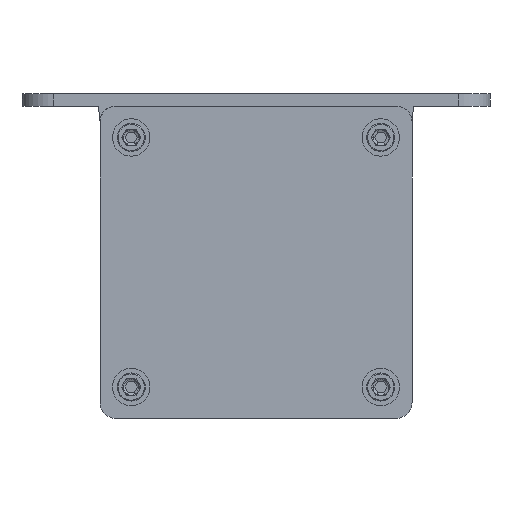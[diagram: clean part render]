
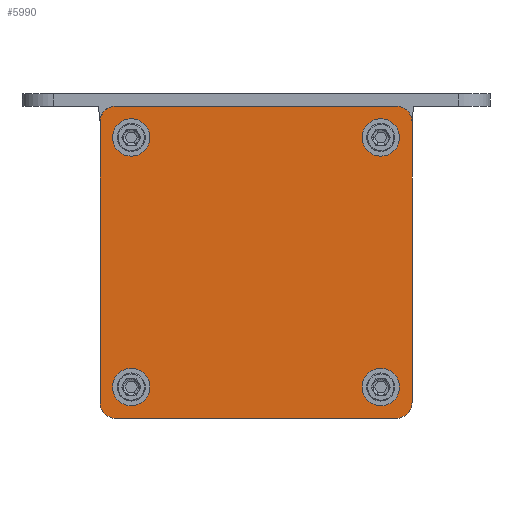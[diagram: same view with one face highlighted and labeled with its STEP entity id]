
A CAD part, front view. The second image highlights one B-rep face of the part: STEP entity #5990.
In plain terms, the highlighted planar face has unit normal (0, -1, 0).
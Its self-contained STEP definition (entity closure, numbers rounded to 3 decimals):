
#2125=CARTESIAN_POINT('',(-45.,-395.5,-45.));
#2126=DIRECTION('',(0.,-1.,0.));
#2127=DIRECTION('',(-1.,0.,0.));
#2128=AXIS2_PLACEMENT_3D('',#2125,#2126,#2127);
#2130=DIRECTION('',(0.,0.,-1.));
#2131=VECTOR('',#2130,90.);
#2132=CARTESIAN_POINT('',(-50.,-395.5,45.));
#2133=LINE('',#2132,#2131);
#2134=CARTESIAN_POINT('',(-45.,-395.5,45.));
#2135=DIRECTION('',(0.,-1.,0.));
#2136=DIRECTION('',(0.,0.,1.));
#2137=AXIS2_PLACEMENT_3D('',#2134,#2135,#2136);
#2139=DIRECTION('',(-1.,0.,0.));
#2140=VECTOR('',#2139,90.);
#2141=CARTESIAN_POINT('',(45.,-395.5,50.));
#2142=LINE('',#2141,#2140);
#2143=CARTESIAN_POINT('',(45.,-395.5,45.));
#2144=DIRECTION('',(0.,-1.,0.));
#2145=DIRECTION('',(1.,0.,0.));
#2146=AXIS2_PLACEMENT_3D('',#2143,#2144,#2145);
#2148=DIRECTION('',(0.,0.,1.));
#2149=VECTOR('',#2148,90.);
#2150=CARTESIAN_POINT('',(50.,-395.5,-45.));
#2151=LINE('',#2150,#2149);
#2152=CARTESIAN_POINT('',(45.,-395.5,-45.));
#2153=DIRECTION('',(0.,-1.,0.));
#2154=DIRECTION('',(0.,0.,-1.));
#2155=AXIS2_PLACEMENT_3D('',#2152,#2153,#2154);
#2157=DIRECTION('',(1.,0.,0.));
#2158=VECTOR('',#2157,90.);
#2159=CARTESIAN_POINT('',(-45.,-395.5,-50.));
#2160=LINE('',#2159,#2158);
#2161=CARTESIAN_POINT('',(-40.,-395.5,-40.));
#2162=DIRECTION('',(0.,-1.,0.));
#2163=DIRECTION('',(0.,0.,1.));
#2164=AXIS2_PLACEMENT_3D('',#2161,#2162,#2163);
#2166=CARTESIAN_POINT('',(-40.,-395.5,-40.));
#2167=DIRECTION('',(0.,-1.,0.));
#2168=DIRECTION('',(0.,0.,-1.));
#2169=AXIS2_PLACEMENT_3D('',#2166,#2167,#2168);
#2171=CARTESIAN_POINT('',(-40.,-395.5,40.));
#2172=DIRECTION('',(0.,-1.,0.));
#2173=DIRECTION('',(0.,0.,1.));
#2174=AXIS2_PLACEMENT_3D('',#2171,#2172,#2173);
#2176=CARTESIAN_POINT('',(-40.,-395.5,40.));
#2177=DIRECTION('',(0.,-1.,0.));
#2178=DIRECTION('',(0.,0.,-1.));
#2179=AXIS2_PLACEMENT_3D('',#2176,#2177,#2178);
#2181=CARTESIAN_POINT('',(40.,-395.5,-40.));
#2182=DIRECTION('',(0.,-1.,0.));
#2183=DIRECTION('',(0.,0.,1.));
#2184=AXIS2_PLACEMENT_3D('',#2181,#2182,#2183);
#2186=CARTESIAN_POINT('',(40.,-395.5,-40.));
#2187=DIRECTION('',(0.,-1.,0.));
#2188=DIRECTION('',(0.,0.,-1.));
#2189=AXIS2_PLACEMENT_3D('',#2186,#2187,#2188);
#2191=CARTESIAN_POINT('',(40.,-395.5,40.));
#2192=DIRECTION('',(0.,-1.,0.));
#2193=DIRECTION('',(0.,0.,1.));
#2194=AXIS2_PLACEMENT_3D('',#2191,#2192,#2193);
#2196=CARTESIAN_POINT('',(40.,-395.5,40.));
#2197=DIRECTION('',(0.,-1.,0.));
#2198=DIRECTION('',(0.,0.,-1.));
#2199=AXIS2_PLACEMENT_3D('',#2196,#2197,#2198);
#2509=CARTESIAN_POINT('',(-50.,-395.5,-45.));
#2510=CARTESIAN_POINT('',(-45.,-395.5,-50.));
#2511=VERTEX_POINT('',#2509);
#2512=VERTEX_POINT('',#2510);
#2513=CARTESIAN_POINT('',(45.,-395.5,-50.));
#2514=VERTEX_POINT('',#2513);
#2515=CARTESIAN_POINT('',(50.,-395.5,-45.));
#2516=VERTEX_POINT('',#2515);
#2517=CARTESIAN_POINT('',(50.,-395.5,45.));
#2518=VERTEX_POINT('',#2517);
#2519=CARTESIAN_POINT('',(45.,-395.5,50.));
#2520=VERTEX_POINT('',#2519);
#2521=CARTESIAN_POINT('',(-45.,-395.5,50.));
#2522=VERTEX_POINT('',#2521);
#2523=CARTESIAN_POINT('',(-50.,-395.5,45.));
#2524=VERTEX_POINT('',#2523);
#2537=CARTESIAN_POINT('',(-40.,-395.5,-36.75));
#2538=CARTESIAN_POINT('',(-40.,-395.5,-43.25));
#2539=VERTEX_POINT('',#2537);
#2540=VERTEX_POINT('',#2538);
#2541=CARTESIAN_POINT('',(-40.,-395.5,43.25));
#2542=CARTESIAN_POINT('',(-40.,-395.5,36.75));
#2543=VERTEX_POINT('',#2541);
#2544=VERTEX_POINT('',#2542);
#2545=CARTESIAN_POINT('',(40.,-395.5,-36.75));
#2546=CARTESIAN_POINT('',(40.,-395.5,-43.25));
#2547=VERTEX_POINT('',#2545);
#2548=VERTEX_POINT('',#2546);
#2549=CARTESIAN_POINT('',(40.,-395.5,43.25));
#2550=CARTESIAN_POINT('',(40.,-395.5,36.75));
#2551=VERTEX_POINT('',#2549);
#2552=VERTEX_POINT('',#2550);
#5945=CARTESIAN_POINT('',(0.,-395.5,0.));
#5946=DIRECTION('',(0.,-1.,0.));
#5947=DIRECTION('',(0.,0.,1.));
#5948=AXIS2_PLACEMENT_3D('',#5945,#5946,#5947);
#5949=PLANE('',#5948);
#5951=ORIENTED_EDGE('',*,*,#5950,.F.);
#5953=ORIENTED_EDGE('',*,*,#5952,.F.);
#5955=ORIENTED_EDGE('',*,*,#5954,.F.);
#5957=ORIENTED_EDGE('',*,*,#5956,.F.);
#5959=ORIENTED_EDGE('',*,*,#5958,.F.);
#5961=ORIENTED_EDGE('',*,*,#5960,.F.);
#5963=ORIENTED_EDGE('',*,*,#5962,.F.);
#5965=ORIENTED_EDGE('',*,*,#5964,.F.);
#5966=EDGE_LOOP('',(#5951,#5953,#5955,#5957,#5959,#5961,#5963,#5965));
#5967=FACE_OUTER_BOUND('',#5966,.F.);
#5968=ORIENTED_EDGE('',*,*,#5925,.T.);
#5969=ORIENTED_EDGE('',*,*,#5939,.T.);
#5970=EDGE_LOOP('',(#5968,#5969));
#5971=FACE_BOUND('',#5970,.F.);
#5973=ORIENTED_EDGE('',*,*,#5972,.T.);
#5975=ORIENTED_EDGE('',*,*,#5974,.T.);
#5976=EDGE_LOOP('',(#5973,#5975));
#5977=FACE_BOUND('',#5976,.F.);
#5979=ORIENTED_EDGE('',*,*,#5978,.T.);
#5981=ORIENTED_EDGE('',*,*,#5980,.T.);
#5982=EDGE_LOOP('',(#5979,#5981));
#5983=FACE_BOUND('',#5982,.F.);
#5985=ORIENTED_EDGE('',*,*,#5984,.T.);
#5987=ORIENTED_EDGE('',*,*,#5986,.T.);
#5988=EDGE_LOOP('',(#5985,#5987));
#5989=FACE_BOUND('',#5988,.F.);
#5990=ADVANCED_FACE('',(#5967,#5971,#5977,#5983,#5989),#5949,.T.);
#2129=CIRCLE('',#2128,5.);
#2138=CIRCLE('',#2137,5.);
#2147=CIRCLE('',#2146,5.);
#2156=CIRCLE('',#2155,5.);
#2165=CIRCLE('',#2164,3.25);
#2170=CIRCLE('',#2169,3.25);
#2175=CIRCLE('',#2174,3.25);
#2180=CIRCLE('',#2179,3.25);
#2185=CIRCLE('',#2184,3.25);
#2190=CIRCLE('',#2189,3.25);
#2195=CIRCLE('',#2194,3.25);
#2200=CIRCLE('',#2199,3.25);
#5925=EDGE_CURVE('',#2539,#2540,#2165,.T.);
#5939=EDGE_CURVE('',#2540,#2539,#2170,.T.);
#5950=EDGE_CURVE('',#2511,#2512,#2129,.T.);
#5952=EDGE_CURVE('',#2524,#2511,#2133,.T.);
#5954=EDGE_CURVE('',#2522,#2524,#2138,.T.);
#5956=EDGE_CURVE('',#2520,#2522,#2142,.T.);
#5958=EDGE_CURVE('',#2518,#2520,#2147,.T.);
#5960=EDGE_CURVE('',#2516,#2518,#2151,.T.);
#5962=EDGE_CURVE('',#2514,#2516,#2156,.T.);
#5964=EDGE_CURVE('',#2512,#2514,#2160,.T.);
#5972=EDGE_CURVE('',#2543,#2544,#2175,.T.);
#5974=EDGE_CURVE('',#2544,#2543,#2180,.T.);
#5978=EDGE_CURVE('',#2547,#2548,#2185,.T.);
#5980=EDGE_CURVE('',#2548,#2547,#2190,.T.);
#5984=EDGE_CURVE('',#2551,#2552,#2195,.T.);
#5986=EDGE_CURVE('',#2552,#2551,#2200,.T.);
